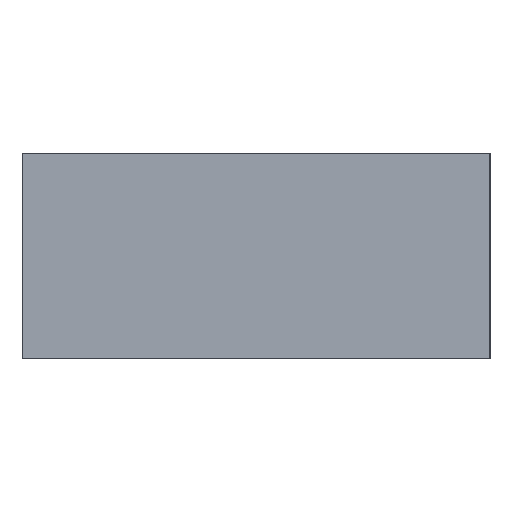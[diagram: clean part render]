
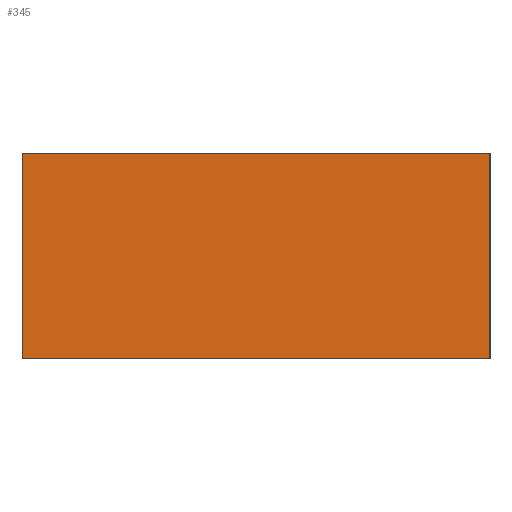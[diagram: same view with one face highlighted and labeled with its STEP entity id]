
A CAD part, left-side view. The second image highlights one B-rep face of the part: STEP entity #345.
In plain terms, the highlighted planar face has unit normal (-1, 0, 0).
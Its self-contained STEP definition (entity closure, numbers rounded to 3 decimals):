
#310 = CARTESIAN_POINT('',(-1.,-0.625,0.));
#311 = VERTEX_POINT('',#310);
#312 = CARTESIAN_POINT('',(-1.,-0.625,0.55));
#313 = VERTEX_POINT('',#312);
#314 = CARTESIAN_POINT('',(-1.,0.625,0.55));
#315 = VERTEX_POINT('',#314);
#316 = CARTESIAN_POINT('',(-1.,0.625,0.));
#317 = VERTEX_POINT('',#316);
#318 = DIRECTION('',(0.,0.,1.));
#319 = VECTOR('',#318,1.);
#320 = LINE('',#310,#319);
#321 = EDGE_CURVE('',#311,#313,#320,.T.);
#322 = ORIENTED_EDGE('',*,*,#321,.T.);
#323 = DIRECTION('',(0.,1.,0.));
#324 = VECTOR('',#323,1.);
#325 = LINE('',#312,#324);
#326 = EDGE_CURVE('',#313,#315,#325,.T.);
#327 = ORIENTED_EDGE('',*,*,#326,.T.);
#328 = DIRECTION('',(0.,0.,1.));
#329 = VECTOR('',#328,1.);
#330 = LINE('',#316,#329);
#331 = EDGE_CURVE('',#317,#315,#330,.T.);
#332 = ORIENTED_EDGE('',*,*,#331,.F.);
#333 = DIRECTION('',(0.,1.,0.));
#334 = VECTOR('',#333,1.);
#335 = LINE('',#310,#334);
#336 = EDGE_CURVE('',#311,#317,#335,.T.);
#337 = ORIENTED_EDGE('',*,*,#336,.F.);
#338 = CARTESIAN_POINT('',(-1.,-0.625,0.));
#339 = DIRECTION('',(-1.,0.,0.));
#340 = DIRECTION('',(0.,0.,1.));
#341 = AXIS2_PLACEMENT_3D('',#338,#339,#340);
#342 = PLANE('',#341);
#343 = EDGE_LOOP('',(#322,#327,#332,#337));
#344 = FACE_OUTER_BOUND('',#343,.T.);
#345 = ADVANCED_FACE('',(#344),#342,.T.);
